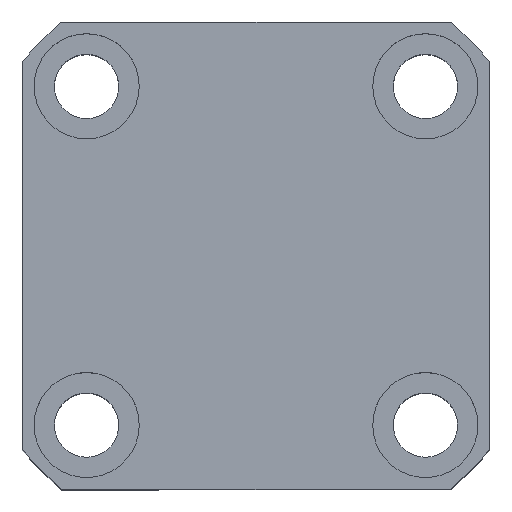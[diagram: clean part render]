
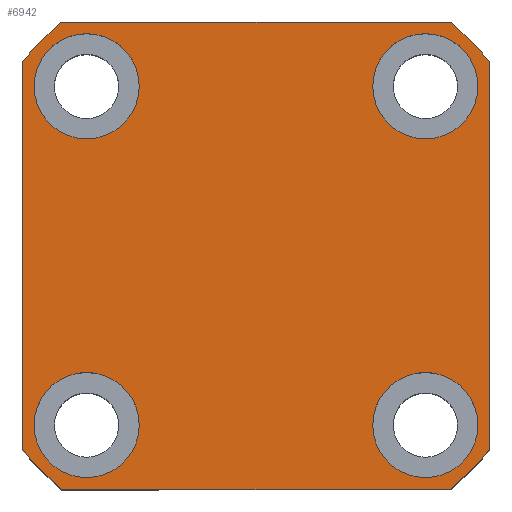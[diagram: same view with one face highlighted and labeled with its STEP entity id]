
A CAD part, top view. The second image highlights one B-rep face of the part: STEP entity #6942.
In plain terms, the highlighted planar face has unit normal (0, 0, 1).
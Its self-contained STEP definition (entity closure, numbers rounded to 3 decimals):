
#65 = ORIENTED_EDGE ( 'NONE', *, *, #6289, .T. ) ;
#98 = EDGE_CURVE ( 'NONE', #8634, #10063, #10637, .T. ) ;
#126 = VERTEX_POINT ( 'NONE', #6163 ) ;
#178 = VERTEX_POINT ( 'NONE', #8807 ) ;
#273 = FACE_BOUND ( 'NONE', #501, .T. ) ;
#431 = VECTOR ( 'NONE', #6130, 1000. ) ;
#501 = EDGE_LOOP ( 'NONE', ( #9022, #9575 ) ) ;
#730 = DIRECTION ( 'NONE',  ( 0., 0., 1. ) ) ;
#763 = CIRCLE ( 'NONE', #10144, 9. ) ;
#800 = AXIS2_PLACEMENT_3D ( 'NONE', #7141, #9726, #2091 ) ;
#902 = CARTESIAN_POINT ( 'NONE',  ( -33.226, 40., 35. ) ) ;
#922 = DIRECTION ( 'NONE',  ( 1., 0., 0. ) ) ;
#1183 = CARTESIAN_POINT ( 'NONE',  ( -33.226, 40., 35. ) ) ;
#1189 = EDGE_CURVE ( 'NONE', #2534, #2291, #763, .T. ) ;
#1316 = CARTESIAN_POINT ( 'NONE',  ( -33.226, -40., 35. ) ) ;
#1342 = CARTESIAN_POINT ( 'NONE',  ( -38., 29., 35. ) ) ;
#1409 = CARTESIAN_POINT ( 'NONE',  ( 29., -29., 35. ) ) ;
#1432 = VERTEX_POINT ( 'NONE', #2978 ) ;
#1464 = DIRECTION ( 'NONE',  ( 1., 0., 0. ) ) ;
#1570 = DIRECTION ( 'NONE',  ( 0., 0., 1. ) ) ;
#1666 = ORIENTED_EDGE ( 'NONE', *, *, #8044, .F. ) ;
#1708 = DIRECTION ( 'NONE',  ( 1., 0., 0. ) ) ;
#1732 = CARTESIAN_POINT ( 'NONE',  ( 38., -29., 35. ) ) ;
#1795 = ORIENTED_EDGE ( 'NONE', *, *, #6992, .T. ) ;
#1800 = DIRECTION ( 'NONE',  ( 0., 0., 1. ) ) ;
#1866 = ORIENTED_EDGE ( 'NONE', *, *, #3240, .T. ) ;
#1927 = CARTESIAN_POINT ( 'NONE',  ( 29., 29., 35. ) ) ;
#1951 = DIRECTION ( 'NONE',  ( 1., 0., 0. ) ) ;
#1963 = DIRECTION ( 'NONE',  ( -1., 0., 0. ) ) ;
#2052 = EDGE_CURVE ( 'NONE', #3694, #1432, #9483, .T. ) ;
#2075 = VERTEX_POINT ( 'NONE', #1316 ) ;
#2091 = DIRECTION ( 'NONE',  ( 1., 0., 0. ) ) ;
#2145 = DIRECTION ( 'NONE',  ( 1., 0., 0. ) ) ;
#2153 = CIRCLE ( 'NONE', #4332, 9. ) ;
#2185 = ORIENTED_EDGE ( 'NONE', *, *, #98, .T. ) ;
#2234 = FACE_BOUND ( 'NONE', #8912, .T. ) ;
#2291 = VERTEX_POINT ( 'NONE', #6524 ) ;
#2355 = VECTOR ( 'NONE', #7672, 1000. ) ;
#2404 = VERTEX_POINT ( 'NONE', #10298 ) ;
#2534 = VERTEX_POINT ( 'NONE', #1342 ) ;
#2631 = CARTESIAN_POINT ( 'NONE',  ( -33.226, -40., 35. ) ) ;
#2663 = ORIENTED_EDGE ( 'NONE', *, *, #7208, .T. ) ;
#2702 = AXIS2_PLACEMENT_3D ( 'NONE', #10277, #7772, #1951 ) ;
#2703 = VERTEX_POINT ( 'NONE', #3977 ) ;
#2796 = AXIS2_PLACEMENT_3D ( 'NONE', #4402, #6207, #3680 ) ;
#2799 = DIRECTION ( 'NONE',  ( 1., 0., 0. ) ) ;
#2838 = ORIENTED_EDGE ( 'NONE', *, *, #10570, .T. ) ;
#2978 = CARTESIAN_POINT ( 'NONE',  ( -20., -29., 35. ) ) ;
#3013 = VECTOR ( 'NONE', #1963, 1000. ) ;
#3063 = DIRECTION ( 'NONE',  ( 1., 0., 0. ) ) ;
#3153 = LINE ( 'NONE', #5968, #8681 ) ;
#3188 = CARTESIAN_POINT ( 'NONE',  ( -38., -29., 35. ) ) ;
#3240 = EDGE_CURVE ( 'NONE', #2703, #2075, #8298, .T. ) ;
#3253 = ORIENTED_EDGE ( 'NONE', *, *, #2052, .F. ) ;
#3378 = PLANE ( 'NONE',  #4052 ) ;
#3448 = CARTESIAN_POINT ( 'NONE',  ( -40., 33.226, 35. ) ) ;
#3473 = DIRECTION ( 'NONE',  ( 0., 0., 1. ) ) ;
#3660 = FACE_BOUND ( 'NONE', #8146, .T. ) ;
#3680 = DIRECTION ( 'NONE',  ( 1., 0., 0. ) ) ;
#3694 = VERTEX_POINT ( 'NONE', #3188 ) ;
#3802 = DIRECTION ( 'NONE',  ( 0., 0., 1. ) ) ;
#3929 = FACE_OUTER_BOUND ( 'NONE', #5562, .T. ) ;
#3977 = CARTESIAN_POINT ( 'NONE',  ( -40., -33.226, 35. ) ) ;
#3985 = AXIS2_PLACEMENT_3D ( 'NONE', #8118, #3802, #4676 ) ;
#4047 = CIRCLE ( 'NONE', #2702, 52. ) ;
#4052 = AXIS2_PLACEMENT_3D ( 'NONE', #7705, #1800, #922 ) ;
#4244 = ORIENTED_EDGE ( 'NONE', *, *, #5917, .T. ) ;
#4332 = AXIS2_PLACEMENT_3D ( 'NONE', #6657, #1570, #1708 ) ;
#4402 = CARTESIAN_POINT ( 'NONE',  ( 29., -29., 35. ) ) ;
#4573 = EDGE_CURVE ( 'NONE', #2404, #5193, #6876, .T. ) ;
#4676 = DIRECTION ( 'NONE',  ( 1., 0., 0. ) ) ;
#4804 = CARTESIAN_POINT ( 'NONE',  ( 33.226, 40., 35. ) ) ;
#4809 = CARTESIAN_POINT ( 'NONE',  ( -40., 33.226, 35. ) ) ;
#4830 = CIRCLE ( 'NONE', #3985, 9. ) ;
#4858 = EDGE_CURVE ( 'NONE', #2291, #2534, #8991, .T. ) ;
#4920 = AXIS2_PLACEMENT_3D ( 'NONE', #7469, #9934, #10777 ) ;
#5193 = VERTEX_POINT ( 'NONE', #1732 ) ;
#5276 = CARTESIAN_POINT ( 'NONE',  ( -29., 29., 35. ) ) ;
#5562 = EDGE_LOOP ( 'NONE', ( #8588, #2185, #2663, #2838, #1866, #1795, #65, #4244 ) ) ;
#5772 = AXIS2_PLACEMENT_3D ( 'NONE', #1927, #7825, #2799 ) ;
#5778 = CARTESIAN_POINT ( 'NONE',  ( 0., 0., 35. ) ) ;
#5883 = ORIENTED_EDGE ( 'NONE', *, *, #7829, .F. ) ;
#5917 = EDGE_CURVE ( 'NONE', #6003, #10738, #3153, .T. ) ;
#5968 = CARTESIAN_POINT ( 'NONE',  ( 40., 33.226, 35. ) ) ;
#6003 = VERTEX_POINT ( 'NONE', #6960 ) ;
#6106 = DIRECTION ( 'NONE',  ( 0., 1., 0. ) ) ;
#6130 = DIRECTION ( 'NONE',  ( 0., -1., 0. ) ) ;
#6163 = CARTESIAN_POINT ( 'NONE',  ( 20., 29., 35. ) ) ;
#6175 = AXIS2_PLACEMENT_3D ( 'NONE', #10549, #9449, #2145 ) ;
#6207 = DIRECTION ( 'NONE',  ( 0., 0., 1. ) ) ;
#6289 = EDGE_CURVE ( 'NONE', #7617, #6003, #7116, .T. ) ;
#6300 = CARTESIAN_POINT ( 'NONE',  ( -29., -29., 35. ) ) ;
#6524 = CARTESIAN_POINT ( 'NONE',  ( -20., 29., 35. ) ) ;
#6644 = ORIENTED_EDGE ( 'NONE', *, *, #9441, .F. ) ;
#6657 = CARTESIAN_POINT ( 'NONE',  ( -29., -29., 35. ) ) ;
#6876 = CIRCLE ( 'NONE', #8082, 9. ) ;
#6942 = ADVANCED_FACE ( 'NONE', ( #3660, #8166, #273, #2234, #3929 ), #3378, .T. ) ;
#6960 = CARTESIAN_POINT ( 'NONE',  ( 40., -33.226, 35. ) ) ;
#6992 = EDGE_CURVE ( 'NONE', #2075, #7617, #9329, .T. ) ;
#7116 = CIRCLE ( 'NONE', #4920, 52. ) ;
#7127 = AXIS2_PLACEMENT_3D ( 'NONE', #5778, #730, #1464 ) ;
#7141 = CARTESIAN_POINT ( 'NONE',  ( 0., 0., 35. ) ) ;
#7144 = DIRECTION ( 'NONE',  ( 0., 0., 1. ) ) ;
#7176 = CARTESIAN_POINT ( 'NONE',  ( 40., 33.226, 35. ) ) ;
#7208 = EDGE_CURVE ( 'NONE', #10063, #9794, #4047, .T. ) ;
#7469 = CARTESIAN_POINT ( 'NONE',  ( 0., 0., 35. ) ) ;
#7617 = VERTEX_POINT ( 'NONE', #10252 ) ;
#7672 = DIRECTION ( 'NONE',  ( 1., 0., 0. ) ) ;
#7705 = CARTESIAN_POINT ( 'NONE',  ( 0., 0., 35. ) ) ;
#7727 = EDGE_LOOP ( 'NONE', ( #9030, #3253 ) ) ;
#7772 = DIRECTION ( 'NONE',  ( 0., 0., 1. ) ) ;
#7825 = DIRECTION ( 'NONE',  ( 0., 0., 1. ) ) ;
#7829 = EDGE_CURVE ( 'NONE', #126, #178, #8514, .T. ) ;
#7986 = DIRECTION ( 'NONE',  ( 1., 0., 0. ) ) ;
#8044 = EDGE_CURVE ( 'NONE', #178, #126, #4830, .T. ) ;
#8073 = CIRCLE ( 'NONE', #2796, 9. ) ;
#8082 = AXIS2_PLACEMENT_3D ( 'NONE', #1409, #10638, #3063 ) ;
#8118 = CARTESIAN_POINT ( 'NONE',  ( 29., 29., 35. ) ) ;
#8146 = EDGE_LOOP ( 'NONE', ( #6644, #10548 ) ) ;
#8166 = FACE_BOUND ( 'NONE', #7727, .T. ) ;
#8298 = CIRCLE ( 'NONE', #800, 52. ) ;
#8506 = DIRECTION ( 'NONE',  ( 1., 0., 0. ) ) ;
#8514 = CIRCLE ( 'NONE', #5772, 9. ) ;
#8588 = ORIENTED_EDGE ( 'NONE', *, *, #10028, .T. ) ;
#8634 = VERTEX_POINT ( 'NONE', #4804 ) ;
#8681 = VECTOR ( 'NONE', #6106, 1000. ) ;
#8807 = CARTESIAN_POINT ( 'NONE',  ( 38., 29., 35. ) ) ;
#8912 = EDGE_LOOP ( 'NONE', ( #1666, #5883 ) ) ;
#8991 = CIRCLE ( 'NONE', #6175, 9. ) ;
#9022 = ORIENTED_EDGE ( 'NONE', *, *, #4858, .F. ) ;
#9030 = ORIENTED_EDGE ( 'NONE', *, *, #9269, .F. ) ;
#9114 = CIRCLE ( 'NONE', #7127, 52. ) ;
#9269 = EDGE_CURVE ( 'NONE', #1432, #3694, #2153, .T. ) ;
#9329 = LINE ( 'NONE', #2631, #2355 ) ;
#9358 = LINE ( 'NONE', #4809, #431 ) ;
#9441 = EDGE_CURVE ( 'NONE', #5193, #2404, #8073, .T. ) ;
#9449 = DIRECTION ( 'NONE',  ( 0., 0., 1. ) ) ;
#9483 = CIRCLE ( 'NONE', #9672, 9. ) ;
#9575 = ORIENTED_EDGE ( 'NONE', *, *, #1189, .F. ) ;
#9672 = AXIS2_PLACEMENT_3D ( 'NONE', #6300, #7144, #7986 ) ;
#9726 = DIRECTION ( 'NONE',  ( 0., 0., 1. ) ) ;
#9794 = VERTEX_POINT ( 'NONE', #3448 ) ;
#9934 = DIRECTION ( 'NONE',  ( 0., 0., 1. ) ) ;
#10028 = EDGE_CURVE ( 'NONE', #10738, #8634, #9114, .T. ) ;
#10063 = VERTEX_POINT ( 'NONE', #902 ) ;
#10144 = AXIS2_PLACEMENT_3D ( 'NONE', #5276, #3473, #8506 ) ;
#10252 = CARTESIAN_POINT ( 'NONE',  ( 33.226, -40., 35. ) ) ;
#10277 = CARTESIAN_POINT ( 'NONE',  ( 0., 0., 35. ) ) ;
#10298 = CARTESIAN_POINT ( 'NONE',  ( 20., -29., 35. ) ) ;
#10548 = ORIENTED_EDGE ( 'NONE', *, *, #4573, .F. ) ;
#10549 = CARTESIAN_POINT ( 'NONE',  ( -29., 29., 35. ) ) ;
#10570 = EDGE_CURVE ( 'NONE', #9794, #2703, #9358, .T. ) ;
#10637 = LINE ( 'NONE', #1183, #3013 ) ;
#10638 = DIRECTION ( 'NONE',  ( 0., 0., 1. ) ) ;
#10738 = VERTEX_POINT ( 'NONE', #7176 ) ;
#10777 = DIRECTION ( 'NONE',  ( 1., 0., 0. ) ) ;
